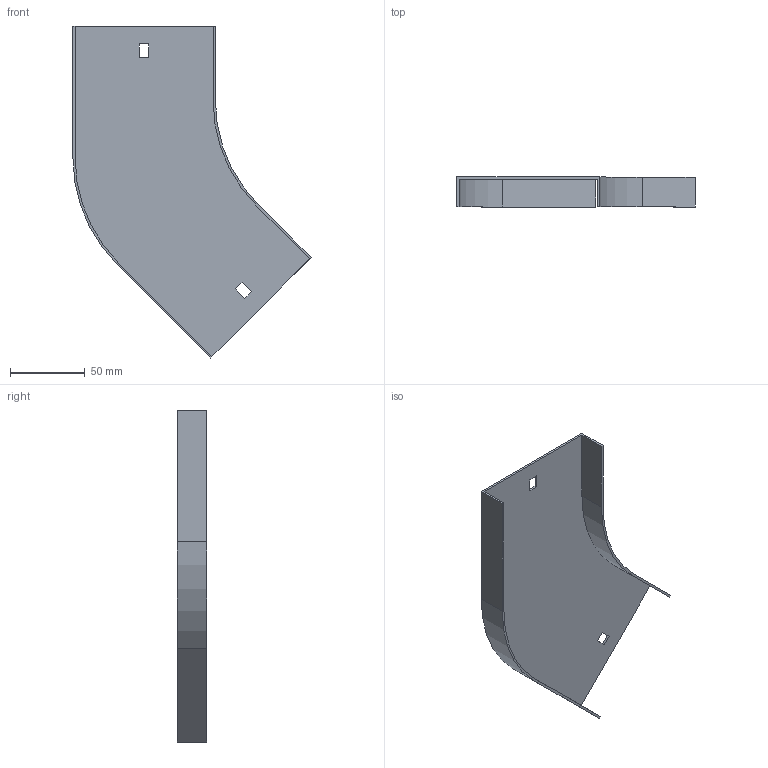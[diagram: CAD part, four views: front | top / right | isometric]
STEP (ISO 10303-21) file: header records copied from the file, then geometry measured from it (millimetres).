
FILE_DESCRIPTION (( 'STEP AP214' ), '1' );
FILE_NAME ('11N1R092.step', '2025-02-21T09:20:48', ( '' ), ( '' ), 'SwSTEP 2.0', 'SolidWorks 2023', '' );
FILE_SCHEMA (( 'AUTOMOTIVE_DESIGN' ));
Length unit declared in the file: millimetre
Products named in the file (1): 11N1R092
Bounding box: 159.71 x 20 x 222.53 mm (x, y, z)
Volume: 43521.4 mm3; surface area: 59169.6 mm2
Topology: 1 solids, 1 shells, 26 faces, 72 edges, 48 vertices
Faces by surface type: plane 22, cylinder 4
Entity records: 855 total; most frequent: CARTESIAN_POINT 147, ORIENTED_EDGE 144, DIRECTION 134, EDGE_CURVE 72, LINE 64, VECTOR 64, VERTEX_POINT 48, AXIS2_PLACEMENT_3D 35
